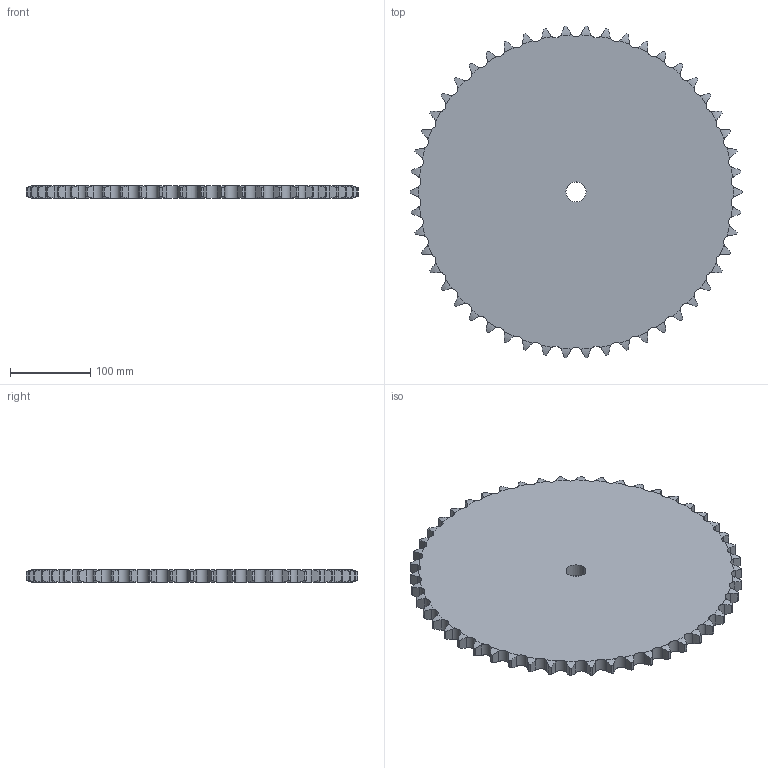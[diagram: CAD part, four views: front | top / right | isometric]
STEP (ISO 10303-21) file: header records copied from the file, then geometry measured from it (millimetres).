
FILE_DESCRIPTION((''),'2;1');
FILE_NAME('500-501-0050_PRT','2021-02-12T',('Brieden'),('Brieden'),'PRO/ENGINEER BY PARAMETRIC TECHNOLOGY CORPORATION, 2010160','PRO/ENGINEER BY PARAMETRIC TECHNOLOGY CORPORATION, 2010160','');
FILE_SCHEMA(('AUTOMOTIVE_DESIGN { 1 0 10303 214 1 1 1 1 }'));
Length unit declared in the file: millimetre
Products named in the file (1): 500-501-0050_PRT
Bounding box: 414.85 x 414.2 x 16.2 mm (x, y, z)
Volume: 2008918.8 mm3; surface area: 279482.2 mm2
Topology: 1 solids, 1 shells, 304 faces, 906 edges, 604 vertices
Faces by surface type: cylinder 202, torus 100, plane 2
Entity records: 15114 total; most frequent: CARTESIAN_POINT 4645, ORIENTED_EDGE 1812, DIRECTION 1418, PRESENTATION_STYLE_ASSIGNMENT 907, STYLED_ITEM 907, CURVE_STYLE 906, EDGE_CURVE 906, AXIS2_PLACEMENT_3D 608
